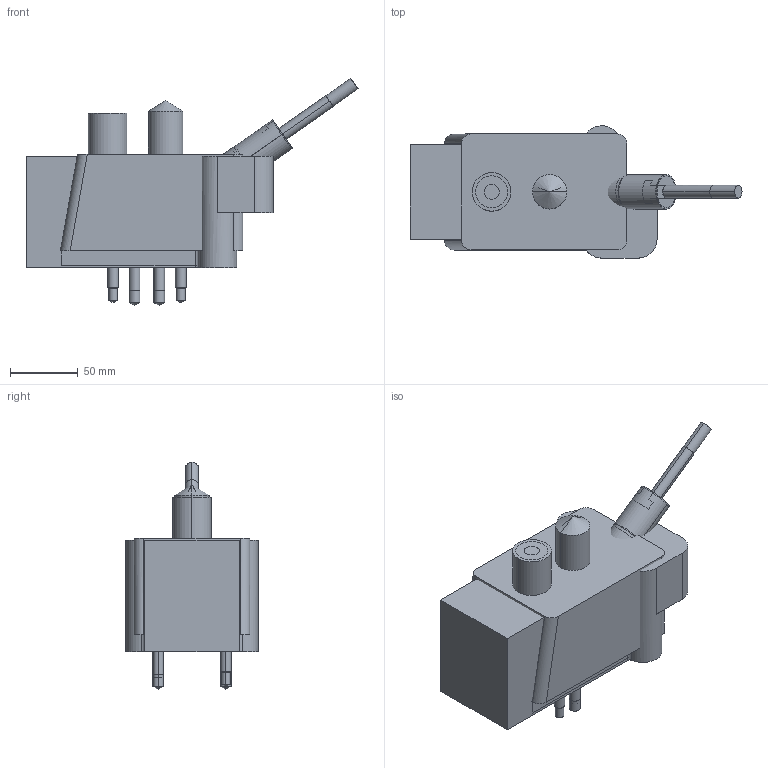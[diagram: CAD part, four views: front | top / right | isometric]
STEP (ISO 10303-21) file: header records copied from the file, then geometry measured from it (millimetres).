
FILE_DESCRIPTION((' '),'2;1');
FILE_NAME( 'EZ-35-P-L.stp', '2023-11-30T09:07:55', (' '), ('--- Datakit www.datakit.com---'), ' Datakit CrossCadWare V2020.4 Oct 21 2020', 'Export from SolidLink (Hexagon Production Software)', ' ');
FILE_SCHEMA(('AP242_MANAGED_MODEL_BASED_3D_ENGINEERING_MIM_LF { 1 0 10303 442 1 1 4 }'));
Length unit declared in the file: millimetre
Products named in the file (129): Workplanes; 1700579453; 1679437560; 1700504465; 1700504571; 1679430250; 1679430251; 1679430252; 1679430253; 1679430254; 1679430273; 1679430280; 1679430284; 1679430286; 1679430291; 1679430292; 1679430293; 1700842803; 1700842905; 1701271783; 1701353892; 1701353893; 1701353894; 1701353895; 1701353896; 1701353897; 1701353898; 1701353899; 1701353900; 1701353901; 1701353902; 1701353903; 1701353904; 1701353905; 1701353906; 1701353907; 1701353908; 1701353909; 1701353910; 1701353911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
Bounding box: 245.48 x 97.75 x 167.95 mm (x, y, z)
Volume: 2583653.4 mm3; surface area: 235668.9 mm2
Topology: 18 solids, 19 shells, 472 faces, 1334 edges, 1120 vertices
Faces by surface type: cylinder 184, plane 166, cone 102, sphere 6, torus 6, bspline 4, revolution 4
Entity records: 21164 total; most frequent: CARTESIAN_POINT 7463, DIRECTION 2747, ORIENTED_EDGE 2204, EDGE_CURVE 1108, AXIS2_PLACEMENT_3D 1083, VERTEX_POINT 708, VECTOR 577, LINE 577
